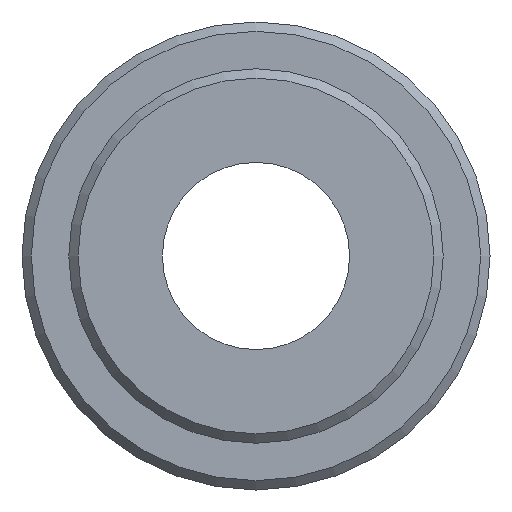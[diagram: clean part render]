
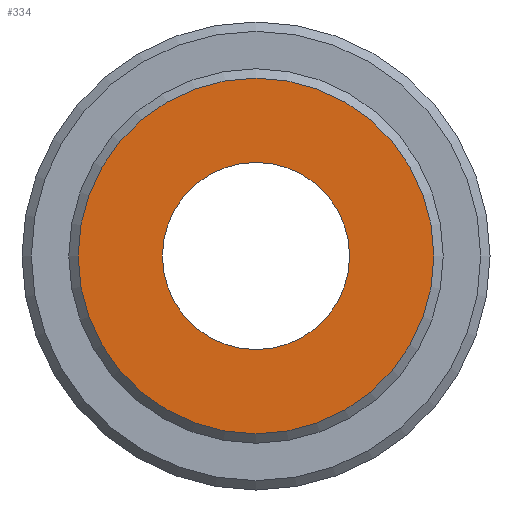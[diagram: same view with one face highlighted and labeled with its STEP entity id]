
A CAD part, front view. The second image highlights one B-rep face of the part: STEP entity #334.
In plain terms, the highlighted planar face has unit normal (0, -1, 0).
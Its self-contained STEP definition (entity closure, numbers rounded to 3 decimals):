
#22=FACE_BOUND('',#109,.T.);
#29=PLANE('',#411);
#82=FACE_OUTER_BOUND('',#108,.T.);
#108=EDGE_LOOP('',(#299));
#109=EDGE_LOOP('',(#300));
#127=CIRCLE('',#377,3.);
#147=CIRCLE('',#409,5.7);
#158=VERTEX_POINT('',#567);
#177=VERTEX_POINT('',#625);
#192=EDGE_CURVE('',#158,#158,#127,.T.);
#219=EDGE_CURVE('',#177,#177,#147,.T.);
#299=ORIENTED_EDGE('',*,*,#219,.F.);
#300=ORIENTED_EDGE('',*,*,#192,.T.);
#334=ADVANCED_FACE('',(#82,#22),#29,.T.);
#377=AXIS2_PLACEMENT_3D('',#569,#451,#452);
#409=AXIS2_PLACEMENT_3D('',#627,#522,#523);
#411=AXIS2_PLACEMENT_3D('',#630,#527,#528);
#451=DIRECTION('center_axis',(0.,1.,0.));
#452=DIRECTION('ref_axis',(1.,0.,0.));
#522=DIRECTION('center_axis',(0.,1.,0.));
#523=DIRECTION('ref_axis',(-1.,0.,0.));
#527=DIRECTION('center_axis',(0.,-1.,0.));
#528=DIRECTION('ref_axis',(0.,0.,-1.));
#567=CARTESIAN_POINT('',(-3.,0.,0.));
#569=CARTESIAN_POINT('Origin',(0.,0.,0.));
#625=CARTESIAN_POINT('',(5.7,0.,0.));
#627=CARTESIAN_POINT('Origin',(0.,0.,0.));
#630=CARTESIAN_POINT('Origin',(6.,0.,0.));
